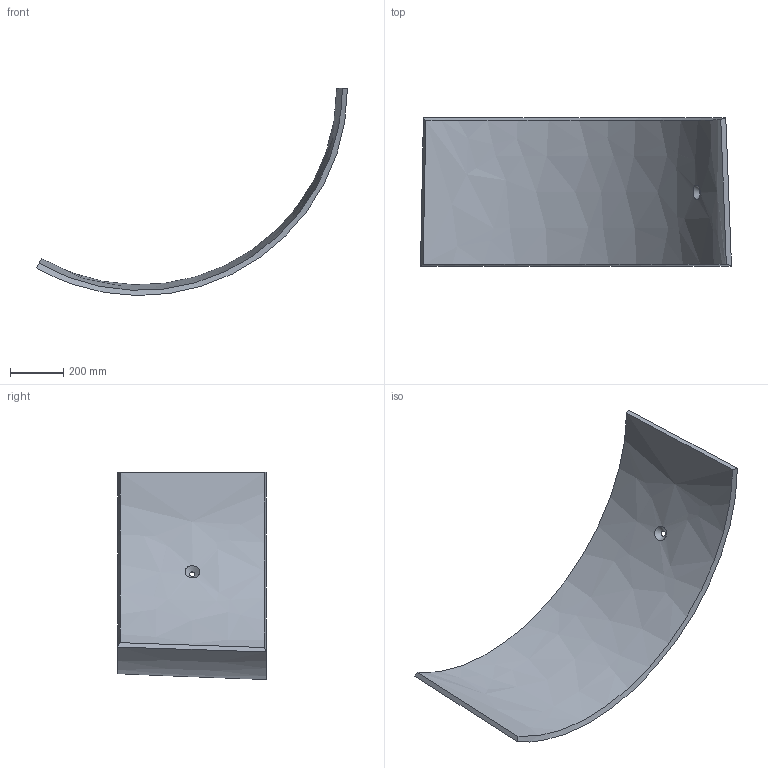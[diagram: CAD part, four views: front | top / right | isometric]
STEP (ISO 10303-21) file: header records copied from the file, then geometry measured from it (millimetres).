
FILE_DESCRIPTION (( 'STEP AP214' ), '1' );
FILE_NAME ('P2.STEP', '2025-01-09T19:43:26', ( '' ), ( '' ), 'SwSTEP 2.0', 'SolidWorks 2024', '' );
FILE_SCHEMA (( 'AUTOMOTIVE_DESIGN' ));
Length unit declared in the file: inch
Products named in the file (1): P2
Bounding box: 1164.19 x 555.62 x 775.39 mm (x, y, z)
Volume: 16924014 mm3; surface area: 1817590.2 mm2
Topology: 1 solids, 1 shells, 8 faces, 18 edges, 12 vertices
Faces by surface type: bspline 7, cylinder 1
Full cylindrical faces by diameter (mm): 19.431 x1
Entity records: 2442 total; most frequent: CARTESIAN_POINT 2294, ORIENTED_EDGE 30, EDGE_CURVE 15, B_SPLINE_CURVE_WITH_KNOTS 15, EDGE_LOOP 12, VERTEX_POINT 11, FACE_OUTER_BOUND 10, ADVANCED_FACE 8
